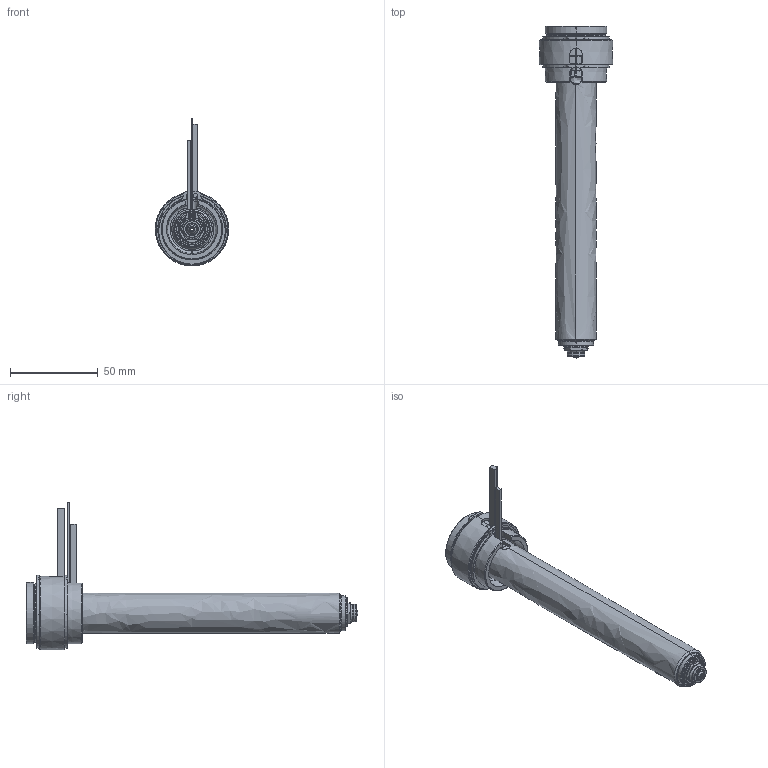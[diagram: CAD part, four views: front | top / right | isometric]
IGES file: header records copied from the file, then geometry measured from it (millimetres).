
Start section: SolidWorks IGES file using analytic representation for surfaces
Global section: file name: C:\Documents and Settings\ws-20\Desktop\TEM\UGER3554-S-A-0 [Øb-1.70  ØC-6.0].IGS; native system: SolidWorks 2012; preprocessor: SolidWorks 2012; author: ws-20; date: 120410.095429; units: millimetre
Bounding box: 42 x 189.4 x 84.4 mm (x, y, z)
Surface area: 43141.2 mm2 (no closed solid volume)
Topology: 0 solids, 0 shells, 207 faces, 3578 edges, 3578 vertices
Faces by surface type: revolution 132, bspline 75
